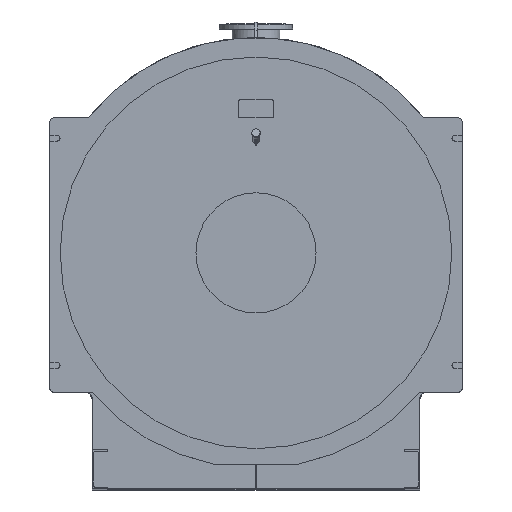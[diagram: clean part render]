
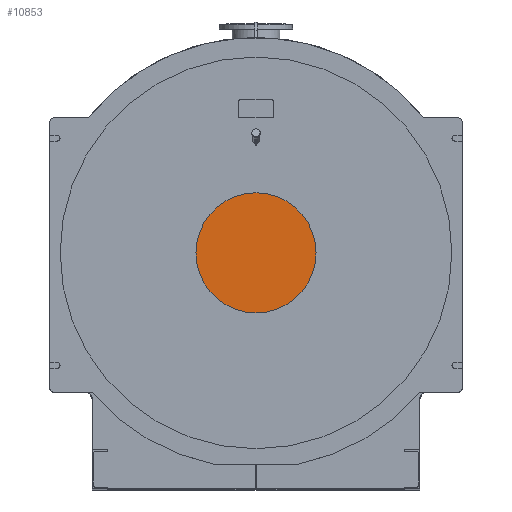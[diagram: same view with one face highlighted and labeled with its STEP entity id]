
A CAD part, top view. The second image highlights one B-rep face of the part: STEP entity #10853.
In plain terms, the highlighted planar face has unit normal (0, 0, 1).
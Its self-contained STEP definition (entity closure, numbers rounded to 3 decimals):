
#526=PLANE('',#11940);
#1095=FACE_OUTER_BOUND('',#1693,.T.);
#1693=EDGE_LOOP('',(#9521));
#2190=CIRCLE('',#11941,275.);
#5013=VERTEX_POINT('',#18538);
#6521=EDGE_CURVE('',#5013,#5013,#2190,.T.);
#9521=ORIENTED_EDGE('',*,*,#6521,.F.);
#10853=ADVANCED_FACE('',(#1095),#526,.T.);
#11940=AXIS2_PLACEMENT_3D('',#18537,#14982,#14983);
#11941=AXIS2_PLACEMENT_3D('',#18539,#14984,#14985);
#14982=DIRECTION('center_axis',(0.,0.,1.));
#14983=DIRECTION('ref_axis',(1.,0.,0.));
#14984=DIRECTION('center_axis',(0.,0.,-1.));
#14985=DIRECTION('ref_axis',(1.,0.,0.));
#18537=CARTESIAN_POINT('Origin',(0.,0.,2747.));
#18538=CARTESIAN_POINT('',(-275.,0.,2747.));
#18539=CARTESIAN_POINT('Origin',(0.,0.,2747.));
